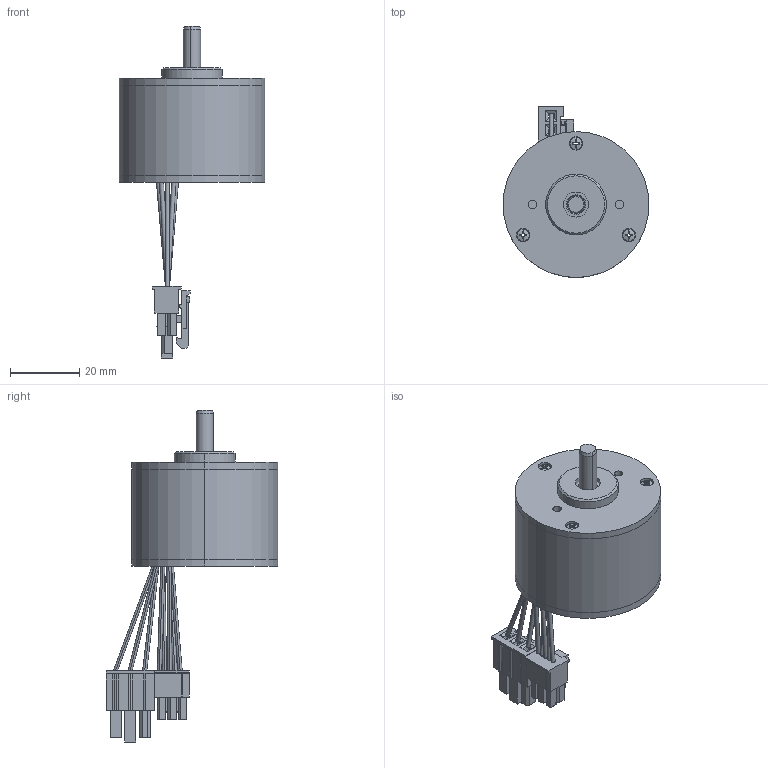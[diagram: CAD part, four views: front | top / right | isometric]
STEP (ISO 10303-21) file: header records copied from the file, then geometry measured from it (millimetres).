
FILE_DESCRIPTION (( 'STEP AP203' ), '1' );
FILE_NAME ('R42BLD10L2.STEP', '2018-05-31T08:18:43', ( 'User' ), ( 'China' ), 'SwSTEP 2.0', 'SolidWorks 2012', '' );
FILE_SCHEMA (( 'CONFIG_CONTROL_DESIGN' ));
Length unit declared in the file: millimetre
Products named in the file (1): R42BLD10L2
Bounding box: 42 x 49.38 x 95.6 mm (x, y, z)
Surface area: 16776.4 mm2 (no closed solid volume)
Topology: 0 solids, 24 shells, 423 faces, 1369 edges, 955 vertices
Faces by surface type: plane 312, cylinder 78, bspline 16, cone 6, sphere 6, torus 5
Entity records: 15095 total; most frequent: CARTESIAN_POINT 3048, DIRECTION 2461, ORIENTED_EDGE 2294, EDGE_CURVE 1369, VECTOR 997, LINE 997, VERTEX_POINT 955, AXIS2_PLACEMENT_3D 732
